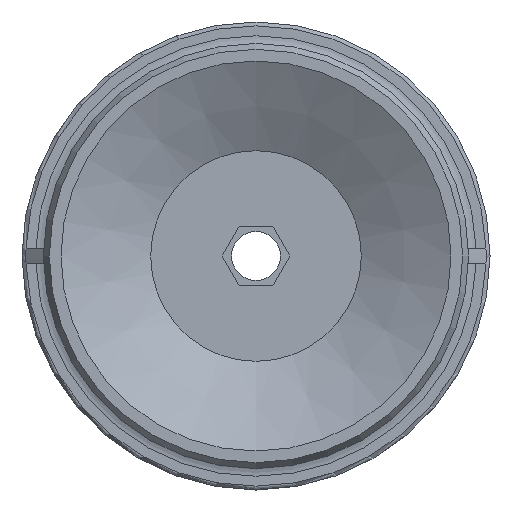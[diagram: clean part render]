
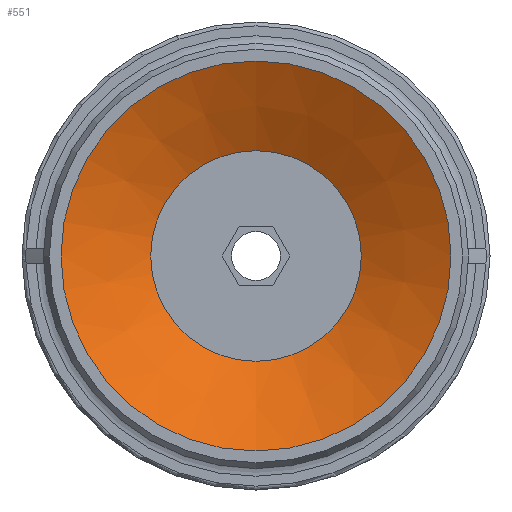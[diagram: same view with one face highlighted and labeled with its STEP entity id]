
A CAD part, front view. The second image highlights one B-rep face of the part: STEP entity #551.
In plain terms, the highlighted conical face has half-angle 61.631 degrees and reference radius 5.4 mm.
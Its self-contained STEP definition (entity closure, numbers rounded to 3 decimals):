
#551=ADVANCED_FACE('',(#805,#806),#807,.F.);
#805=FACE_BOUND('',#1090,.T.);
#806=FACE_OUTER_BOUND('',#1091,.T.);
#807=CONICAL_SURFACE('',#1092,5.4,1.076);
#1090=EDGE_LOOP('',(#1793));
#1091=EDGE_LOOP('',(#1794));
#1092=AXIS2_PLACEMENT_3D('',#1795,#1796,#1797);
#1793=ORIENTED_EDGE('',*,*,#2095,.F.);
#1794=ORIENTED_EDGE('',*,*,#2104,.T.);
#1795=CARTESIAN_POINT('',(0.0,2.484,0.0));
#1796=DIRECTION('',(-0.0,-1.0,0.));
#1797=DIRECTION('',(0.0,0.,-1.0));
#2095=EDGE_CURVE('',#2434,#2434,#2435,.T.);
#2104=EDGE_CURVE('',#2451,#2451,#2452,.T.);
#2434=VERTEX_POINT('',#3186);
#2435=CIRCLE('',#3187,5.4);
#2451=VERTEX_POINT('',#3205);
#2452=CIRCLE('',#3206,10.0);
#3186=CARTESIAN_POINT('',(0.0,2.484,-5.4));
#3187=AXIS2_PLACEMENT_3D('',#3530,#3531,#3532);
#3205=CARTESIAN_POINT('',(0.0,0.,-10.0));
#3206=AXIS2_PLACEMENT_3D('',#3553,#3554,#3555);
#3530=CARTESIAN_POINT('',(0.0,2.484,0.0));
#3531=DIRECTION('',(0.0,-1.0,0.));
#3532=DIRECTION('',(0.0,0.,-1.0));
#3553=CARTESIAN_POINT('',(0.0,0.0,0.0));
#3554=DIRECTION('',(0.0,-1.0,0.));
#3555=DIRECTION('',(0.0,0.,-1.0));
